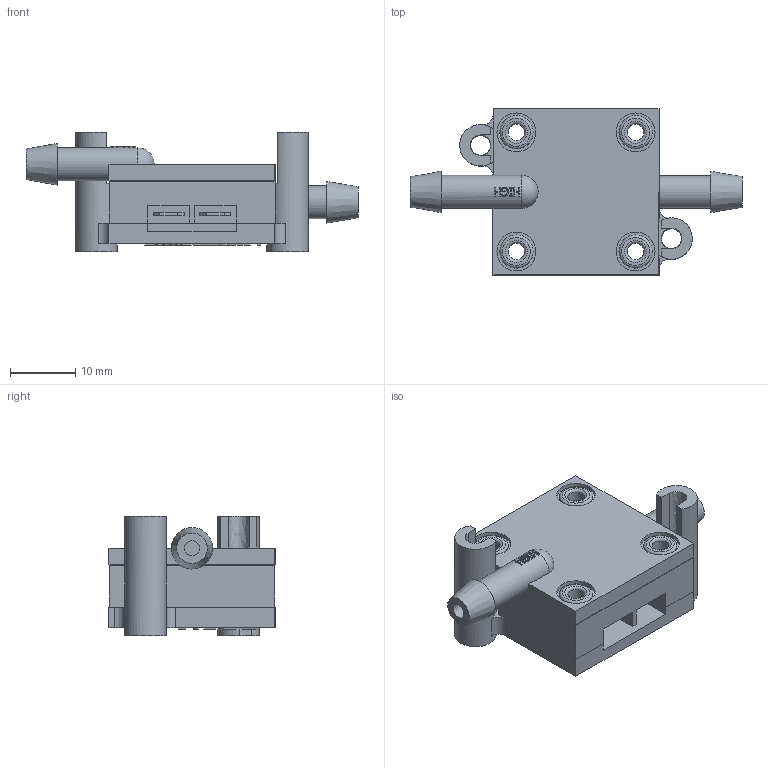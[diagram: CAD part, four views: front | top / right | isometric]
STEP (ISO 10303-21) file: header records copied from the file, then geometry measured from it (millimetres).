
FILE_DESCRIPTION((''),'2;1');
FILE_NAME('G:\DRAWINGS\SWITCH\INVENTOR DRAWINGS\WORLD MAGNETICS SWITCH\WM SALES STP FILES\755X.stp','2011-05-18T15:15:57',('dale'),(''),'Autodesk Inventor 2009','Autodesk Inventor 2009','');
FILE_SCHEMA(('AUTOMOTIVE_DESIGN { 1 0 10303 214 1 1 1 1 }'));
Length unit declared in the file: inch
Products named in the file (7): 755X; 60503-STP; 60392-STP; 60513-STP; 60817-STP; 60456; 60694
Assembly tree (10 placements, depth 2):
  755X
    60503-STP
    60392-STP  x2
    60513-STP
    60817-STP
    60456  x4
    60694
Bounding box: 50.8 x 25.4 x 18.24 mm (x, y, z)
Volume: 8141.4 mm3; surface area: 8740.4 mm2
Topology: 10 solids, 10 shells, 644 faces, 1669 edges, 1103 vertices
Faces by surface type: plane 376, bspline 203, cylinder 43, torus 16, cone 3, sphere 3
Full cylindrical faces by diameter (mm): 1.194 x1, 1.346 x2, 2.083 x1, 2.362 x1, 2.565 x4, 3.073 x4, 3.175 x1, 4.572 x4, 4.826 x4, 5.029 x1, 5.08 x5, 6.35 x2
Entity records: 25525 total; most frequent: CARTESIAN_POINT 12269, ORIENTED_EDGE 2932, DIRECTION 2064, EDGE_CURVE 1466, VERTEX_POINT 1003, VECTOR 976, LINE 976, EDGE_LOOP 707
